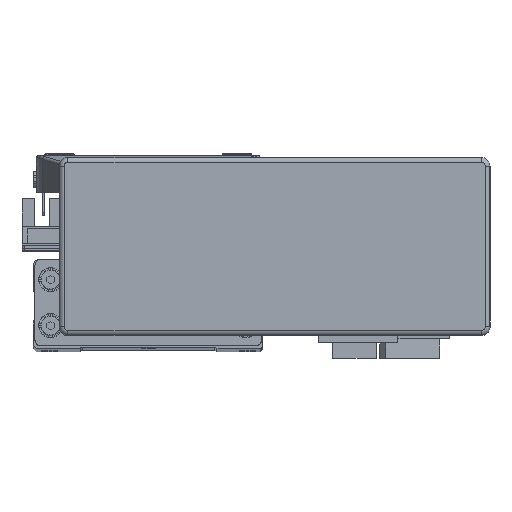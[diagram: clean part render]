
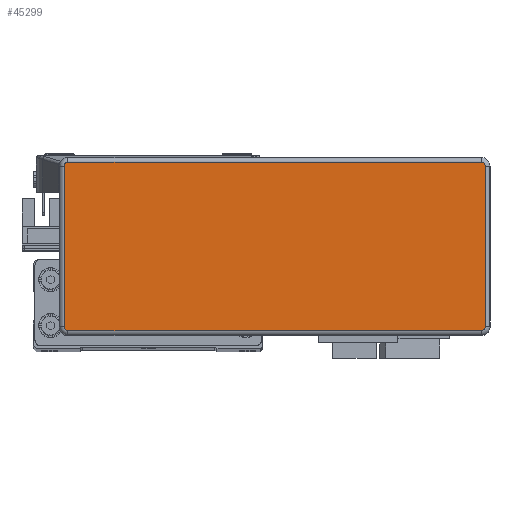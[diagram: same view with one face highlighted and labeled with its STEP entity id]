
A CAD part, top view. The second image highlights one B-rep face of the part: STEP entity #45299.
In plain terms, the highlighted planar face has unit normal (0, 0, 1) as drawn and (0, 0, -1) by its records, which use the part's own axes.
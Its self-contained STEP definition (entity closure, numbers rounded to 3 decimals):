
#13691 = EDGE_LOOP ( 'NONE', ( #40413, #40349, #40381, #40419, #40467, #40385, #40239, #40387 ) ) ;
#13770 = VERTEX_POINT ( 'NONE', #18606 ) ;
#13791 = VERTEX_POINT ( 'NONE', #18571 ) ;
#13802 = VERTEX_POINT ( 'NONE', #18689 ) ;
#13828 = VERTEX_POINT ( 'NONE', #18711 ) ;
#13835 = VERTEX_POINT ( 'NONE', #18659 ) ;
#13836 = VERTEX_POINT ( 'NONE', #18655 ) ;
#13849 = VERTEX_POINT ( 'NONE', #18657 ) ;
#13869 = VERTEX_POINT ( 'NONE', #18015 ) ;
#18015 = CARTESIAN_POINT ( 'NONE',  ( -73.295, 27.995, -32.2 ) ) ;
#18571 = CARTESIAN_POINT ( 'NONE',  ( -73.295, -27.995, -32.2 ) ) ;
#18606 = CARTESIAN_POINT ( 'NONE',  ( -71.995, -29.295, -32.2 ) ) ;
#18655 = CARTESIAN_POINT ( 'NONE',  ( 71.995, 29.295, -32.2 ) ) ;
#18657 = CARTESIAN_POINT ( 'NONE',  ( 73.295, 27.995, -32.2 ) ) ;
#18659 = CARTESIAN_POINT ( 'NONE',  ( 73.295, -27.995, -32.2 ) ) ;
#18689 = CARTESIAN_POINT ( 'NONE',  ( -71.995, 29.295, -32.2 ) ) ;
#18711 = CARTESIAN_POINT ( 'NONE',  ( 71.995, -29.295, -32.2 ) ) ;
#22157 = AXIS2_PLACEMENT_3D ( 'NONE', #27009, #26978, #26990 ) ;
#26978 = DIRECTION ( 'NONE',  ( 0., 0., 1. ) ) ;
#26982 = PLANE ( 'NONE',  #22157 ) ;
#26990 = DIRECTION ( 'NONE',  ( 1., 0., 0. ) ) ;
#27009 = CARTESIAN_POINT ( 'NONE',  ( 71.995, -27.995, -32.2 ) ) ;
#29940 = AXIS2_PLACEMENT_3D ( 'NONE', #36826, #36877, #36828 ) ;
#29950 = AXIS2_PLACEMENT_3D ( 'NONE', #36645, #36676, #36636 ) ;
#29952 = AXIS2_PLACEMENT_3D ( 'NONE', #36997, #37029, #36980 ) ;
#29972 = AXIS2_PLACEMENT_3D ( 'NONE', #36648, #36651, #36644 ) ;
#30799 = FACE_OUTER_BOUND ( 'NONE', #13691, .T. ) ;
#31386 = EDGE_CURVE ( 'NONE', #13869, #13802, #43944, .T. ) ;
#31387 = EDGE_CURVE ( 'NONE', #13836, #13849, #43850, .T. ) ;
#31390 = EDGE_CURVE ( 'NONE', #13849, #13835, #43874, .T. ) ;
#31411 = EDGE_CURVE ( 'NONE', #13802, #13836, #43974, .T. ) ;
#31437 = EDGE_CURVE ( 'NONE', #13770, #13791, #44040, .T. ) ;
#31458 = EDGE_CURVE ( 'NONE', #13791, #13869, #44015, .T. ) ;
#31472 = EDGE_CURVE ( 'NONE', #13828, #13770, #44137, .T. ) ;
#31479 = EDGE_CURVE ( 'NONE', #13835, #13828, #44166, .T. ) ;
#36636 = DIRECTION ( 'NONE',  ( 1., 0., 0. ) ) ;
#36644 = DIRECTION ( 'NONE',  ( 1., 0., 0. ) ) ;
#36645 = CARTESIAN_POINT ( 'NONE',  ( -71.995, 27.995, -32.2 ) ) ;
#36648 = CARTESIAN_POINT ( 'NONE',  ( 71.995, 27.995, -32.2 ) ) ;
#36650 = DIRECTION ( 'NONE',  ( 0., -1., 0. ) ) ;
#36651 = DIRECTION ( 'NONE',  ( 0., 0., -1. ) ) ;
#36653 = CARTESIAN_POINT ( 'NONE',  ( 73.295, -27.995, -32.2 ) ) ;
#36676 = DIRECTION ( 'NONE',  ( 0., 0., -1. ) ) ;
#36689 = CARTESIAN_POINT ( 'NONE',  ( 71.995, 29.295, -32.2 ) ) ;
#36736 = DIRECTION ( 'NONE',  ( 1., 0., 0. ) ) ;
#36808 = CARTESIAN_POINT ( 'NONE',  ( -73.295, -27.995, -32.2 ) ) ;
#36817 = DIRECTION ( 'NONE',  ( 0., 1., 0. ) ) ;
#36826 = CARTESIAN_POINT ( 'NONE',  ( -71.995, -27.995, -32.2 ) ) ;
#36828 = DIRECTION ( 'NONE',  ( 1., 0., 0. ) ) ;
#36877 = DIRECTION ( 'NONE',  ( 0., 0., -1. ) ) ;
#36900 = CARTESIAN_POINT ( 'NONE',  ( 71.995, -29.295, -32.2 ) ) ;
#36959 = DIRECTION ( 'NONE',  ( -1., 0., 0. ) ) ;
#36980 = DIRECTION ( 'NONE',  ( 1., 0., 0. ) ) ;
#36997 = CARTESIAN_POINT ( 'NONE',  ( 71.995, -27.995, -32.2 ) ) ;
#37029 = DIRECTION ( 'NONE',  ( 0., 0., -1. ) ) ;
#40239 = ORIENTED_EDGE ( 'NONE', *, *, #31411, .T. ) ;
#40349 = ORIENTED_EDGE ( 'NONE', *, *, #31479, .T. ) ;
#40381 = ORIENTED_EDGE ( 'NONE', *, *, #31472, .T. ) ;
#40385 = ORIENTED_EDGE ( 'NONE', *, *, #31386, .T. ) ;
#40387 = ORIENTED_EDGE ( 'NONE', *, *, #31387, .T. ) ;
#40413 = ORIENTED_EDGE ( 'NONE', *, *, #31390, .T. ) ;
#40419 = ORIENTED_EDGE ( 'NONE', *, *, #31437, .T. ) ;
#40467 = ORIENTED_EDGE ( 'NONE', *, *, #31458, .T. ) ;
#43841 = VECTOR ( 'NONE', #36650, 1000. ) ;
#43850 = CIRCLE ( 'NONE', #29972, 1.3 ) ;
#43874 = LINE ( 'NONE', #36653, #43841 ) ;
#43944 = CIRCLE ( 'NONE', #29950, 1.3 ) ;
#43960 = VECTOR ( 'NONE', #36736, 1000. ) ;
#43974 = LINE ( 'NONE', #36689, #43960 ) ;
#44015 = LINE ( 'NONE', #36808, #44029 ) ;
#44029 = VECTOR ( 'NONE', #36817, 1000. ) ;
#44040 = CIRCLE ( 'NONE', #29940, 1.3 ) ;
#44133 = VECTOR ( 'NONE', #36959, 1000. ) ;
#44137 = LINE ( 'NONE', #36900, #44133 ) ;
#44166 = CIRCLE ( 'NONE', #29952, 1.3 ) ;
#45299 = ADVANCED_FACE ( 'NONE', ( #30799 ), #26982, .F. ) ;
